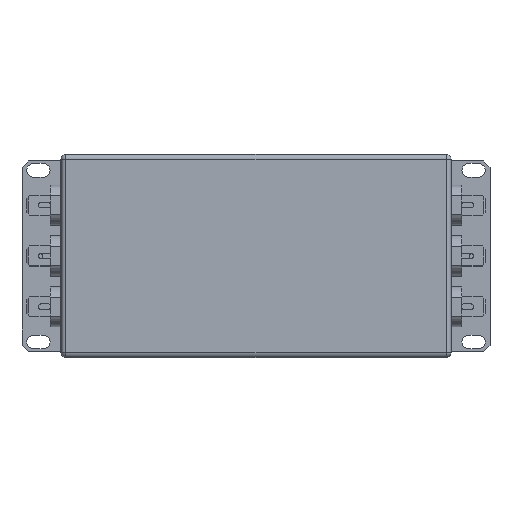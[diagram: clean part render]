
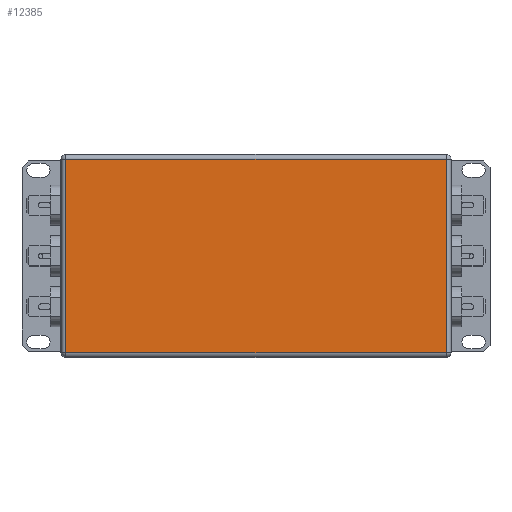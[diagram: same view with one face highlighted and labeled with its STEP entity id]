
A CAD part, top view. The second image highlights one B-rep face of the part: STEP entity #12385.
In plain terms, the highlighted planar face has unit normal (0, 0, 1).
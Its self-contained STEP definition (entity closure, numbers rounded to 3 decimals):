
#12113=CARTESIAN_POINT('',(-61.,31.,30.0));
#12114=VERTEX_POINT('',#12113);
#12122=CARTESIAN_POINT('',(61.,31.,30.0));
#12123=VERTEX_POINT('',#12122);
#12124=CARTESIAN_POINT('',(-61.,31.0,30.0));
#12125=DIRECTION('',(1.0,0.0,0.0));
#12126=VECTOR('',#12125,122.0);
#12127=LINE('',#12124,#12126);
#12128=EDGE_CURVE('',#12114,#12123,#12127,.T.);
#12160=CARTESIAN_POINT('',(61.,-31.,30.0));
#12161=VERTEX_POINT('',#12160);
#12162=CARTESIAN_POINT('',(61.,31.,30.0));
#12163=DIRECTION('',(0.0,-1.0,0.0));
#12164=VECTOR('',#12163,62.);
#12165=LINE('',#12162,#12164);
#12166=EDGE_CURVE('',#12123,#12161,#12165,.T.);
#12210=CARTESIAN_POINT('',(-61.,-31.,30.0));
#12211=VERTEX_POINT('',#12210);
#12212=CARTESIAN_POINT('',(61.0,-31.,30.0));
#12213=DIRECTION('',(-1.0,0.0,0.0));
#12214=VECTOR('',#12213,122.0);
#12215=LINE('',#12212,#12214);
#12216=EDGE_CURVE('',#12161,#12211,#12215,.T.);
#12265=CARTESIAN_POINT('',(-61.,-31.,30.0));
#12266=DIRECTION('',(0.0,1.0,0.0));
#12267=VECTOR('',#12266,62.);
#12268=LINE('',#12265,#12267);
#12269=EDGE_CURVE('',#12211,#12114,#12268,.T.);
#12374=CARTESIAN_POINT('',(0.,0.,30.0));
#12375=DIRECTION('',(0.0,0.0,1.0));
#12376=DIRECTION('',(1.0,0.0,0.0));
#12377=AXIS2_PLACEMENT_3D('',#12374,#12375,#12376);
#12378=PLANE('',#12377);
#12379=ORIENTED_EDGE('',*,*,#12128,.F.);
#12380=ORIENTED_EDGE('',*,*,#12269,.F.);
#12381=ORIENTED_EDGE('',*,*,#12216,.F.);
#12382=ORIENTED_EDGE('',*,*,#12166,.F.);
#12383=EDGE_LOOP('',(#12379,#12380,#12381,#12382));
#12384=FACE_OUTER_BOUND('',#12383,.T.);
#12385=ADVANCED_FACE('',(#12384),#12378,.T.);
